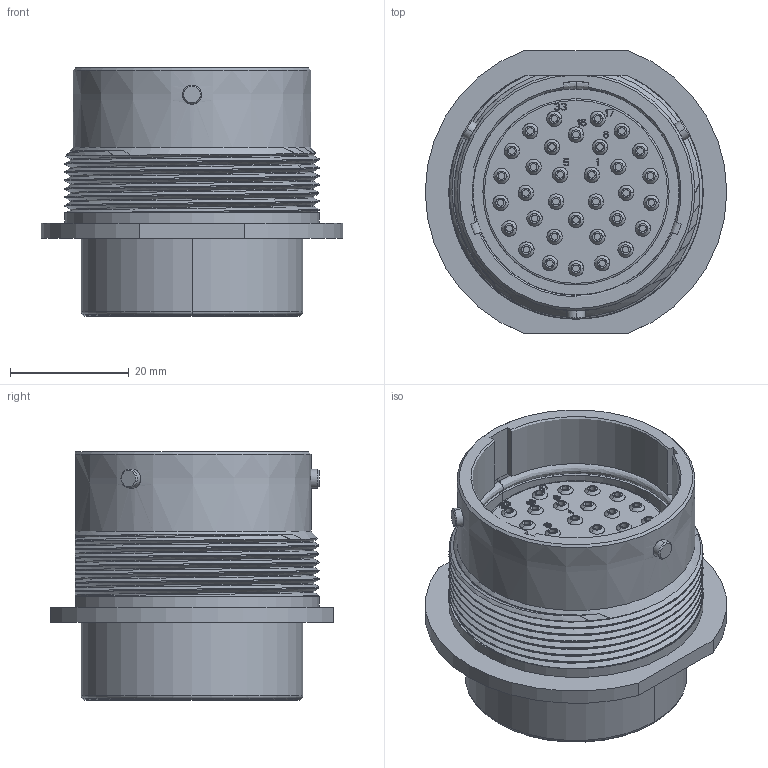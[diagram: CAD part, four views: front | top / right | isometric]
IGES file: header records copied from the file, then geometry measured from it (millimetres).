
Start section:  PTC IGES file: c-hd34-24-33pn-99-3d.igs
Global section: file name: c-hd34-24-33pn-99-3d.igs; native system: Pro/ENGINEER by Parametric Technology Corporation; preprocessor: 2011490; author: workeradm; organization: Unknown; units: millimetre
Bounding box: 50.8 x 47.62 x 41.83 mm (x, y, z)
Surface area: 13241 mm2 (no closed solid volume)
Topology: 0 solids, 0 shells, 901 faces, 4282 edges, 4282 vertices
Faces by surface type: bspline 505, revolution 396
